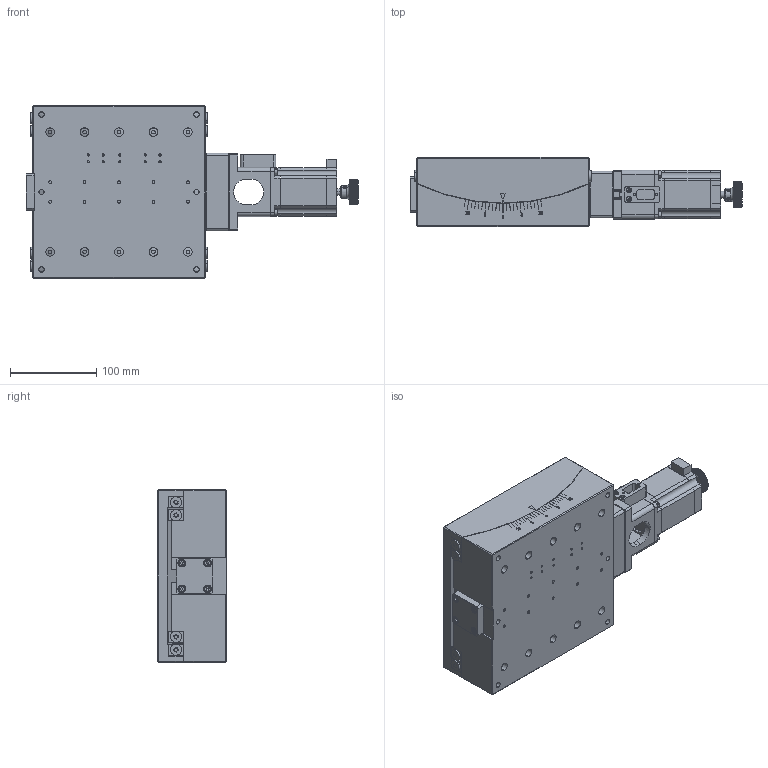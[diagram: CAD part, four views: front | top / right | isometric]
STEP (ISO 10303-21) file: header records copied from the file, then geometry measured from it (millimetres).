
FILE_DESCRIPTION (( 'STEP AP203' ), '1' );
FILE_NAME ('装配体PT200-175（电动）.STEP', '2026-07-10T07:11:19', ( '' ), ( '' ), 'SwSTEP 2.0', 'SolidWorks 2025', '' );
FILE_SCHEMA (( 'CONFIG_CONTROL_DESIGN' ));
Products named in the file (1): 装配体PT200-175（电动）
Bounding box: 385.47 x 80.09 x 200 mm (x, y, z)
Surface area: 356411 mm2 (no closed solid volume)
Topology: 0 solids, 70 shells, 1480 faces, 4881 edges, 3414 vertices
Faces by surface type: plane 727, cylinder 643, torus 46, cone 34, bspline 28, sphere 2
Entity records: 61664 total; most frequent: CARTESIAN_POINT 20190, ORIENTED_EDGE 8332, DIRECTION 8051, EDGE_CURVE 4855, VERTEX_POINT 3412, AXIS2_PLACEMENT_3D 2830, LINE 2391, VECTOR 2391
